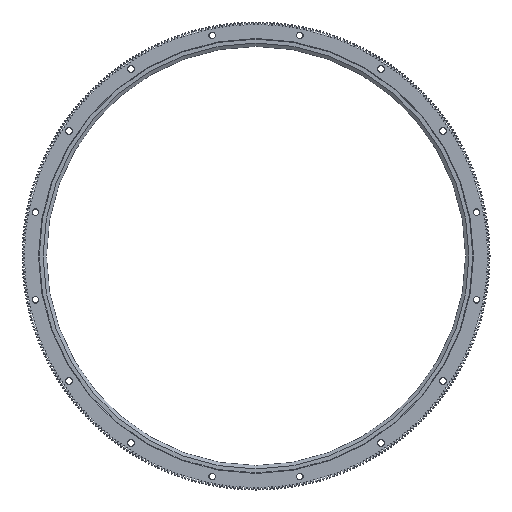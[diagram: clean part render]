
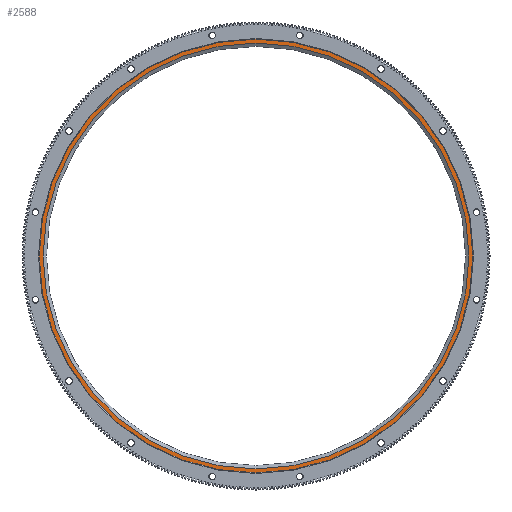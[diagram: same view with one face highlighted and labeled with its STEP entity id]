
A CAD part, front view. The second image highlights one B-rep face of the part: STEP entity #2588.
In plain terms, the highlighted planar face has unit normal (0, -1, 0).
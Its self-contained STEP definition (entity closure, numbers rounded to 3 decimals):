
#2588 = ADVANCED_FACE( '', ( #7708, #7709 ), #7710, .T. );
#7708 = FACE_OUTER_BOUND( '', #12858, .T. );
#7709 = FACE_BOUND( '', #12859, .T. );
#7710 = PLANE( '', #12860 );
#12858 = EDGE_LOOP( '', ( #33223 ) );
#12859 = EDGE_LOOP( '', ( #33224 ) );
#12860 = AXIS2_PLACEMENT_3D( '', #33225, #33226, #33227 );
#33223 = ORIENTED_EDGE( '', *, *, #42753, .T. );
#33224 = ORIENTED_EDGE( '', *, *, #42752, .F. );
#33225 = CARTESIAN_POINT( '', ( 373.057, 15., 0. ) );
#33226 = DIRECTION( '', ( 0., -1., 0. ) );
#33227 = DIRECTION( '', ( 0., 0., -1. ) );
#42752 = EDGE_CURVE( '', #55162, #55162, #55163, .T. );
#42753 = EDGE_CURVE( '', #55164, #55164, #55165, .T. );
#55162 = VERTEX_POINT( '', #75327 );
#55163 = CIRCLE( '', #75328, 373.057 );
#55164 = VERTEX_POINT( '', #75329 );
#55165 = CIRCLE( '', #75330, 380.6 );
#75327 = CARTESIAN_POINT( '', ( 0., 15., -373.057 ) );
#75328 = AXIS2_PLACEMENT_3D( '', #84571, #84572, #84573 );
#75329 = CARTESIAN_POINT( '', ( 0., 15., -380.6 ) );
#75330 = AXIS2_PLACEMENT_3D( '', #84574, #84575, #84576 );
#84571 = CARTESIAN_POINT( '', ( 0., 15., 0. ) );
#84572 = DIRECTION( '', ( 0., -1., 0. ) );
#84573 = DIRECTION( '', ( 0., 0., -1. ) );
#84574 = CARTESIAN_POINT( '', ( 0., 15., 0. ) );
#84575 = DIRECTION( '', ( 0., -1., 0. ) );
#84576 = DIRECTION( '', ( 0., 0., -1. ) );
